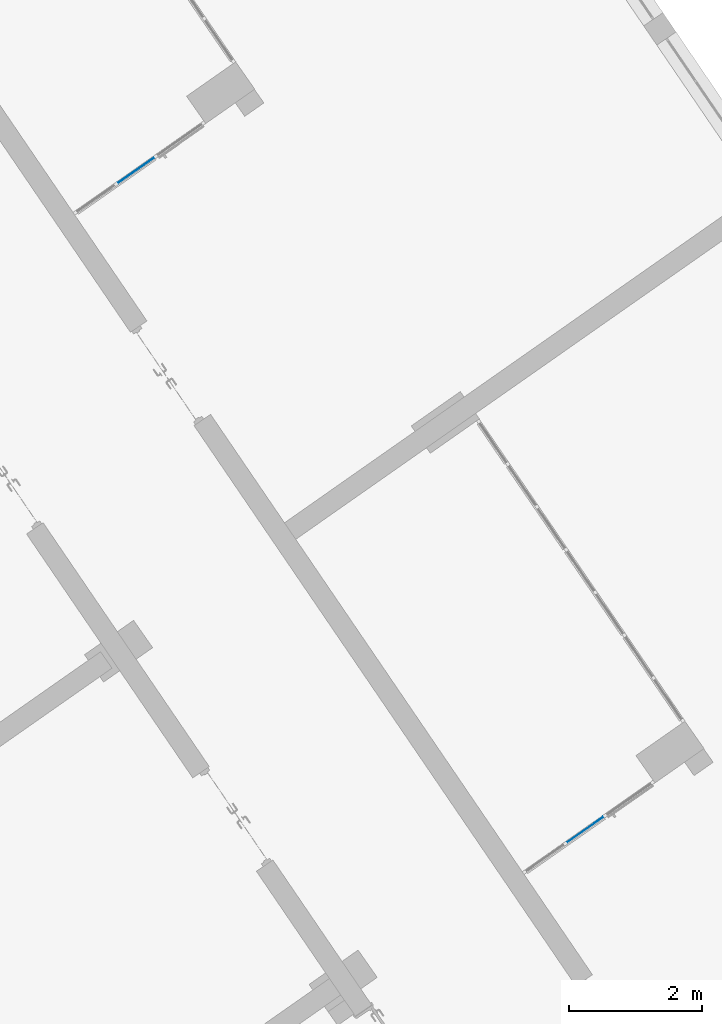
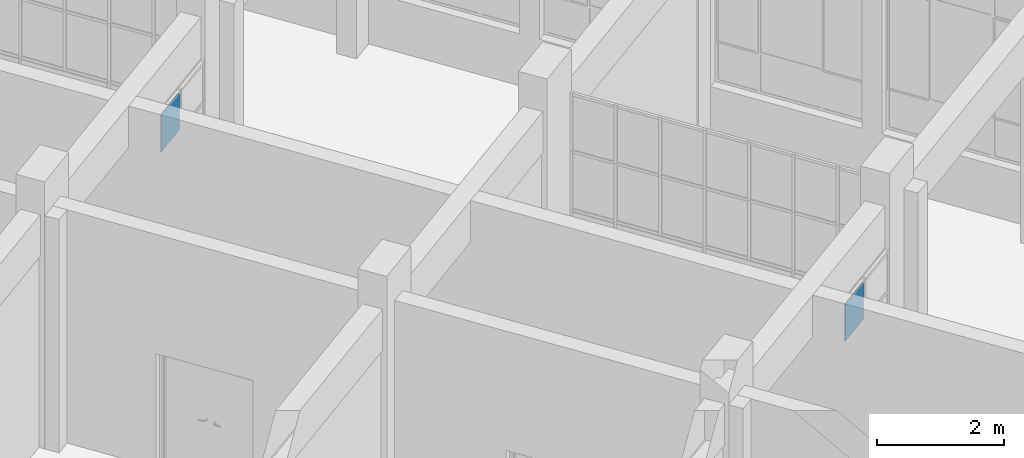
# One storey, part 53 of 157: 2 plates, 2 elements without a shape of their own.
"""IFC2X3 building model written with IfcOpenShell, lengths in millimetres."""

from ifc_helpers import new_model, entity, si_unit, converted_unit, derived_unit, direction, frame, origin, origin_2d_with_axis, place, context, subcontext, project, spatial, rectangle, extrude, source, transform, mapped, material, type_object, type_shapes, element, aggregate, save


model = new_model("IFC2X3")

# Units and contexts
model_context = context("Model", 3, precision=0.01, world=origin(), true_north=direction((6.123031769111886e-17, 1.0)))
body_context = subcontext(model_context, "Body", "Model", "MODEL_VIEW")
ifc_project = project(units=[si_unit("LENGTHUNIT", "METRE", prefix="MILLI"), si_unit("AREAUNIT", "SQUARE_METRE"), si_unit("VOLUMEUNIT", "CUBIC_METRE"), converted_unit("PLANEANGLEUNIT", "DEGREE", entity("IfcRatioMeasure", 0.017453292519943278), si_unit("PLANEANGLEUNIT", "RADIAN"), dimensions=[0, 0, 0, 0, 0, 0, 0]), si_unit("MASSUNIT", "GRAM", prefix="KILO"), derived_unit("MASSDENSITYUNIT", [(si_unit("MASSUNIT", "GRAM", prefix="KILO"), 1), (si_unit("LENGTHUNIT", "METRE"), -3)]), derived_unit("MOMENTOFINERTIAUNIT", [(si_unit("LENGTHUNIT", "METRE"), 4)]), si_unit("TIMEUNIT", "SECOND"), si_unit("FREQUENCYUNIT", "HERTZ"), si_unit("THERMODYNAMICTEMPERATUREUNIT", "DEGREE_CELSIUS"), derived_unit("THERMALTRANSMITTANCEUNIT", [(si_unit("MASSUNIT", "GRAM", prefix="KILO"), 1), (si_unit("THERMODYNAMICTEMPERATUREUNIT", "KELVIN"), -1), (si_unit("TIMEUNIT", "SECOND"), -3)]), derived_unit("THERMALCONDUCTANCEUNIT", [(si_unit("MASSUNIT", "GRAM", prefix="KILO"), 1), (si_unit("LENGTHUNIT", "METRE"), 1), (si_unit("THERMODYNAMICTEMPERATUREUNIT", "KELVIN"), -1), (si_unit("TIMEUNIT", "SECOND"), -3)]), derived_unit("VOLUMETRICFLOWRATEUNIT", [(si_unit("LENGTHUNIT", "METRE"), 3), (si_unit("TIMEUNIT", "SECOND"), -1)]), derived_unit("MASSFLOWRATEUNIT", [(si_unit("MASSUNIT", "GRAM", prefix="KILO"), 1), (si_unit("TIMEUNIT", "SECOND"), -1)]), derived_unit("ROTATIONALFREQUENCYUNIT", [(si_unit("TIMEUNIT", "SECOND"), -1)]), si_unit("ELECTRICCURRENTUNIT", "AMPERE"), si_unit("ELECTRICVOLTAGEUNIT", "VOLT"), si_unit("POWERUNIT", "WATT"), converted_unit("FORCEUNIT", "KIP", entity("IfcRatioMeasure", 2.088543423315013e-05), si_unit("FORCEUNIT", "NEWTON"), dimensions=[1, 1, -2, 0, 0, 0, 0]), si_unit("ILLUMINANCEUNIT", "LUX"), si_unit("LUMINOUSFLUXUNIT", "LUMEN"), si_unit("LUMINOUSINTENSITYUNIT", "CANDELA"), derived_unit("USERDEFINED", [(si_unit("MASSUNIT", "GRAM", prefix="KILO"), -1), (si_unit("LENGTHUNIT", "METRE"), -2), (si_unit("TIMEUNIT", "SECOND"), 3), (si_unit("LUMINOUSFLUXUNIT", "LUMEN"), 1)]), derived_unit("USERDEFINED", [(si_unit("MASSUNIT", "GRAM", prefix="KILO"), 1), (si_unit("LENGTHUNIT", "METRE"), 3), (si_unit("TIMEUNIT", "SECOND"), -3), (si_unit("ELECTRICCURRENTUNIT", "AMPERE"), -2)]), derived_unit("USERDEFINED", [(si_unit("LENGTHUNIT", "METRE"), 2), (si_unit("TIMEUNIT", "SECOND"), -2)]), derived_unit("SOUNDPOWERUNIT", [(si_unit("MASSUNIT", "GRAM", prefix="KILO"), 1), (si_unit("LENGTHUNIT", "METRE"), 2), (si_unit("TIMEUNIT", "SECOND"), -3)]), derived_unit("SOUNDPRESSUREUNIT", [(si_unit("MASSUNIT", "GRAM", prefix="KILO"), 1), (si_unit("LENGTHUNIT", "METRE"), -1), (si_unit("TIMEUNIT", "SECOND"), -2)]), derived_unit("LINEARVELOCITYUNIT", [(si_unit("LENGTHUNIT", "METRE"), 1), (si_unit("TIMEUNIT", "SECOND"), -1)]), si_unit("PRESSUREUNIT", "PASCAL"), derived_unit("USERDEFINED", [(si_unit("LENGTHUNIT", "METRE"), -2), (si_unit("MASSUNIT", "GRAM", prefix="KILO"), 1), (si_unit("TIMEUNIT", "SECOND"), -2)]), derived_unit("LINEARFORCEUNIT", [(si_unit("MASSUNIT", "GRAM", prefix="KILO"), 1), (si_unit("LENGTHUNIT", "METRE"), 1), (si_unit("TIMEUNIT", "SECOND"), -2), (si_unit("LENGTHUNIT", "METRE"), -1)]), derived_unit("PLANARFORCEUNIT", [(si_unit("MASSUNIT", "GRAM", prefix="KILO"), 1), (si_unit("LENGTHUNIT", "METRE"), 1), (si_unit("TIMEUNIT", "SECOND"), -2), (si_unit("LENGTHUNIT", "METRE"), -2)]), derived_unit("SPECIFICHEATCAPACITYUNIT", [(si_unit("LENGTHUNIT", "METRE"), 2), (si_unit("TIMEUNIT", "SECOND"), -2), (si_unit("THERMODYNAMICTEMPERATUREUNIT", "KELVIN"), -1)]), derived_unit("VAPORPERMEABILITYUNIT", [(si_unit("TIMEUNIT", "SECOND"), 1), (si_unit("LENGTHUNIT", "METRE"), -1)]), derived_unit("DYNAMICVISCOSITYUNIT", [(si_unit("MASSUNIT", "GRAM", prefix="KILO"), 1), (si_unit("LENGTHUNIT", "METRE"), -1), (si_unit("TIMEUNIT", "SECOND"), -1)]), derived_unit("THERMALEXPANSIONCOEFFICIENTUNIT", [(si_unit("THERMODYNAMICTEMPERATUREUNIT", "KELVIN"), -1)])], contexts=[model_context])

# Site, building, storey
site_placement = place(None, frame((0.0, 0.0, 0.0), z_axis=(0.0, 0.0, 1.0), x_axis=(0.8191520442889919, 0.5735764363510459, 0.0)))
site = spatial("IfcSite", under=ifc_project, at=site_placement, Name="Default", CompositionType="ELEMENT")
building_placement = place(site_placement, origin())
building = spatial("IfcBuilding", under=site, at=building_placement, CompositionType="ELEMENT")
storey_placement = place(building_placement, origin())
storey = spatial("IfcBuildingStorey", under=building, at=storey_placement, Name="1.EG +0.00", CompositionType="ELEMENT", Elevation=-4.331468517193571e-12)

# Curtain wall, plate
curtain_wall_type = type_object("IfcCurtainWallType", Name="Curtain Wall:Curtain_Wall_CJC_Int5", PredefinedType="NOTDEFINED")
curtain_wall_1_placement = place(storey_placement, origin())
curtain_wall_1 = element("IfcCurtainWall", 1, at=curtain_wall_1_placement, inside=storey, type_object=curtain_wall_type, Name="Curtain Wall:Curtain_Wall_CJC_Int5", ObjectType="Curtain Wall:Curtain_Wall_CJC_Int5")
ifc_material = material(Name="Glass")
plate_type = type_object("IfcPlateType", Name="System Panel:Glazed_CJC", PredefinedType="CURTAIN_PANEL", material=ifc_material)
shared_shape = source(origin(), body_context, "Body", "SweptSolid", [
    extrude(rectangle(XDim=10.0, YDim=677.0716548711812, at=origin_2d_with_axis()), frame((0.0, 0.0, 0.0), z_axis=(0.0, 0.0, 1.0), x_axis=(0.0, 1.0, 0.0)), (0.0, 0.0, 1.0), 725.0000000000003),
])
type_shapes(plate_type, [shared_shape])
plate_1_placement = place(curtain_wall_1_placement, frame((-212250.09968647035, 145771.35891435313, 2925.0), z_axis=(0.0, 0.0, 1.0), x_axis=(-1.0, 0.0, 0.0)))
plate_1 = element("IfcPlate", 2, at=plate_1_placement, type_object=plate_type, material=ifc_material, Name="System Panel:Glazed_CJC", ObjectType="System Panel:Glazed_CJC", context=body_context, shape_type="MappedRepresentation", body=[
    mapped(shared_shape, transform((0.0, 0.0, 0.0), scale=1.0)),
])
aggregate(curtain_wall_1, [plate_1])

curtain_wall_2_placement = place(storey_placement, origin())
curtain_wall_2 = element("IfcCurtainWall", 3, at=curtain_wall_2_placement, inside=storey, type_object=curtain_wall_type, Name="Curtain Wall:Curtain_Wall_CJC_Int5", ObjectType="Curtain Wall:Curtain_Wall_CJC_Int5")
plate_2_placement = place(curtain_wall_2_placement, frame((-212097.332256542, 157771.3589143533, 2925.0), z_axis=(0.0, 0.0, 1.0), x_axis=(-1.0, 0.0, 0.0)))
plate_2 = element("IfcPlate", 4, at=plate_2_placement, type_object=plate_type, material=ifc_material, Name="System Panel:Glazed_CJC", ObjectType="System Panel:Glazed_CJC", context=body_context, shape_type="MappedRepresentation", body=[
    mapped(shared_shape, transform((0.0, 0.0, 0.0), scale=1.0)),
])
aggregate(curtain_wall_2, [plate_2])

save(model, "model.ifc")
